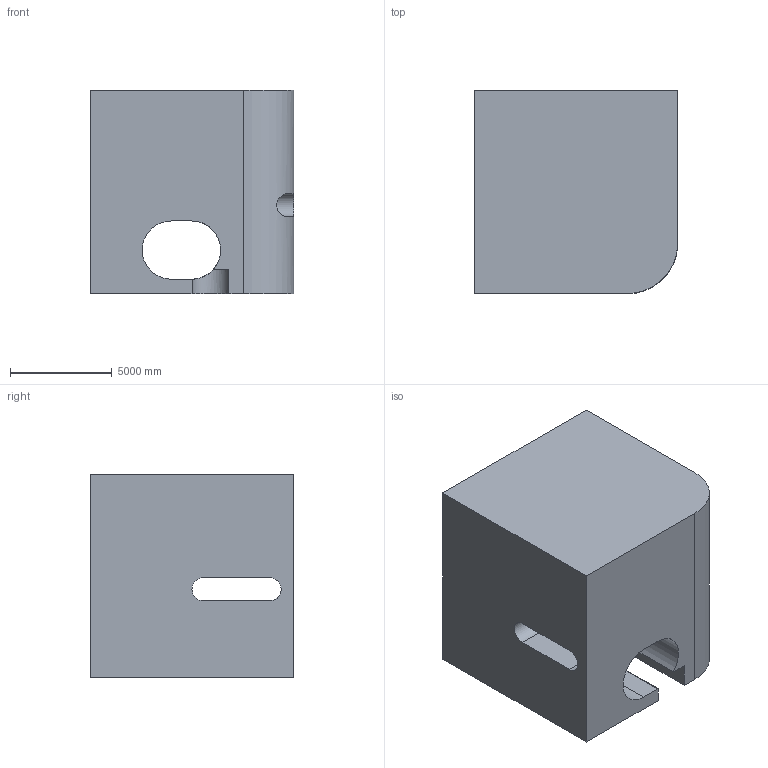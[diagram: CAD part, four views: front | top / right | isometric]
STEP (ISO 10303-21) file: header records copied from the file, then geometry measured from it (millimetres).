
FILE_DESCRIPTION (( 'STEP AP203' ), '1' );
FILE_NAME ('33.STEP', '2022-09-02T13:45:26', ( 'user' ), ( '' ), 'SwSTEP 2.0', 'SolidWorks 2021', '' );
FILE_SCHEMA (( 'CONFIG_CONTROL_DESIGN' ));
Length unit declared in the file: centimetre
Products named in the file (1): 33
Bounding box: 10000 x 10000 x 10000 mm (x, y, z)
Volume: 839552557811 mm3; surface area: 765882547.7 mm2
Topology: 1 solids, 1 shells, 19 faces, 57 edges, 38 vertices
Faces by surface type: plane 13, cylinder 6
Entity records: 930 total; most frequent: CARTESIAN_POINT 319, ORIENTED_EDGE 114, DIRECTION 109, EDGE_CURVE 57, VECTOR 41, LINE 41, VERTEX_POINT 38, AXIS2_PLACEMENT_3D 34
